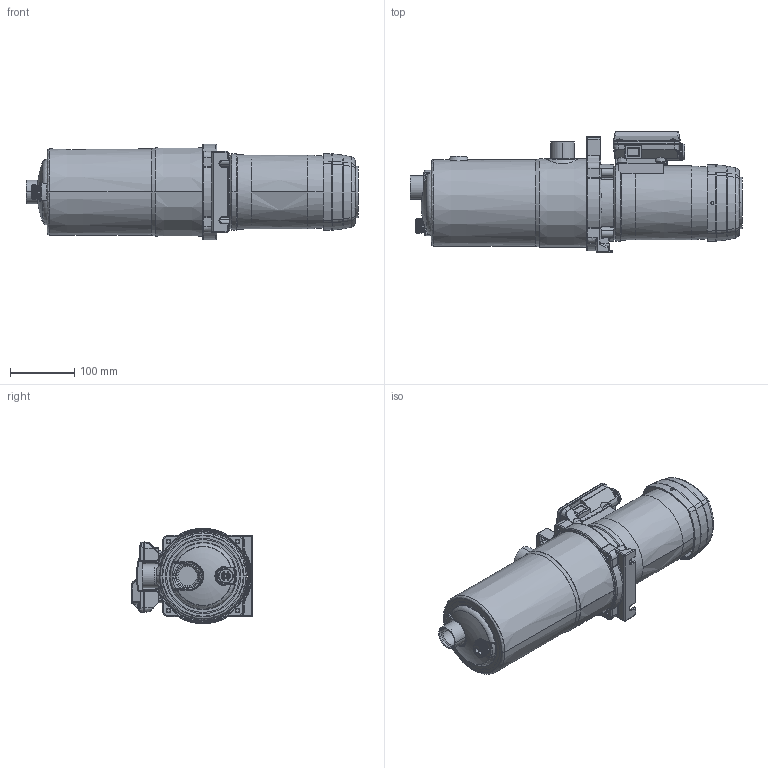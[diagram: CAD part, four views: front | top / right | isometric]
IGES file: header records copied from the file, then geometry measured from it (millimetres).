
Start section:  PTC IGES file: tecno_25_4.igs
Global section: file name: tecno_25_4.igs; native system: Pro/ENGINEER by Parametric Technology Corporation; preprocessor: 2008150; author: usuari; organization: Unknown; date: 20151117.125548; units: millimetre
Bounding box: 515.8 x 188.8 x 148.25 mm (x, y, z)
Surface area: 586455.2 mm2 (no closed solid volume)
Topology: 0 solids, 0 shells, 2001 faces, 10216 edges, 10199 vertices
Faces by surface type: revolution 1088, bspline 913
